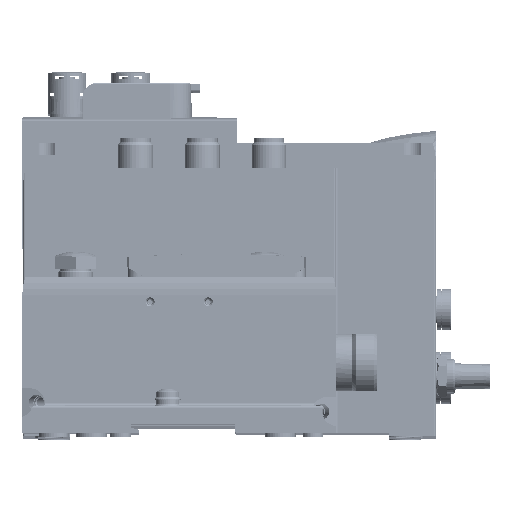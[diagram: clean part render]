
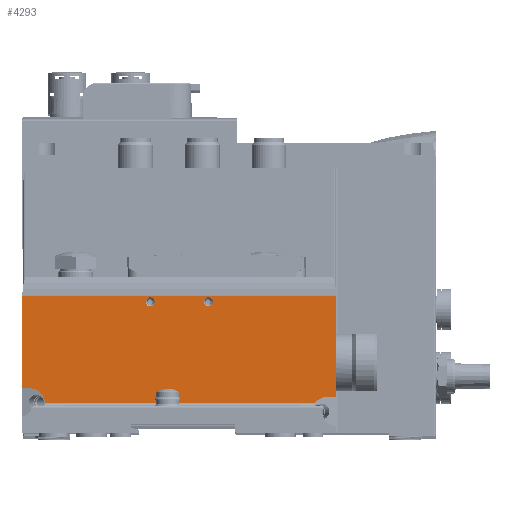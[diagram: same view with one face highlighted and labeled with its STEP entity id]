
A CAD part, top view. The second image highlights one B-rep face of the part: STEP entity #4293.
In plain terms, the highlighted planar face has unit normal (0, 0, 1) as drawn and (-1, 0, 0) by its records, which use the part's own axes.
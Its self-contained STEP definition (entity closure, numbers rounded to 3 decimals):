
#4293 = ADVANCED_FACE( '', ( #10471, #10472, #10473 ), #10474, .F. );
#10471 = FACE_BOUND( '', #19550, .T. );
#10472 = FACE_BOUND( '', #19551, .T. );
#10473 = FACE_OUTER_BOUND( '', #19552, .T. );
#10474 = PLANE( '', #19553 );
#19550 = EDGE_LOOP( '', ( #31121 ) );
#19551 = EDGE_LOOP( '', ( #31122 ) );
#19552 = EDGE_LOOP( '', ( #31123, #31124, #31125, #31126, #31127, #31128, #31129, #31130 ) );
#19553 = AXIS2_PLACEMENT_3D( '', #31131, #31132, #31133 );
#31121 = ORIENTED_EDGE( '', *, *, #52064, .T. );
#31122 = ORIENTED_EDGE( '', *, *, #52065, .T. );
#31123 = ORIENTED_EDGE( '', *, *, #52066, .T. );
#31124 = ORIENTED_EDGE( '', *, *, #51820, .T. );
#31125 = ORIENTED_EDGE( '', *, *, #52067, .F. );
#31126 = ORIENTED_EDGE( '', *, *, #52068, .F. );
#31127 = ORIENTED_EDGE( '', *, *, #52069, .F. );
#31128 = ORIENTED_EDGE( '', *, *, #52070, .T. );
#31129 = ORIENTED_EDGE( '', *, *, #52071, .F. );
#31130 = ORIENTED_EDGE( '', *, *, #52072, .T. );
#31131 = CARTESIAN_POINT( '', ( -15.4, 48.7, 54.05 ) );
#31132 = DIRECTION( '', ( 1., 0., 0. ) );
#31133 = DIRECTION( '', ( 0., 0., -1. ) );
#51820 = EDGE_CURVE( '', #62031, #62035, #62037, .T. );
#52064 = EDGE_CURVE( '', #62453, #62453, #62454, .T. );
#52065 = EDGE_CURVE( '', #62455, #62455, #62456, .T. );
#52066 = EDGE_CURVE( '', #62457, #62031, #62458, .T. );
#52067 = EDGE_CURVE( '', #62459, #62035, #62460, .F. );
#52068 = EDGE_CURVE( '', #62461, #62459, #62462, .T. );
#52069 = EDGE_CURVE( '', #62463, #62461, #62464, .F. );
#52070 = EDGE_CURVE( '', #62463, #62465, #62466, .T. );
#52071 = EDGE_CURVE( '', #62467, #62465, #62468, .T. );
#52072 = EDGE_CURVE( '', #62467, #62457, #62469, .T. );
#62031 = VERTEX_POINT( '', #76623 );
#62035 = VERTEX_POINT( '', #76629 );
#62037 = LINE( '', #76632, #76633 );
#62453 = VERTEX_POINT( '', #77216 );
#62454 = CIRCLE( '', #77217, 1.55 );
#62455 = VERTEX_POINT( '', #77218 );
#62456 = CIRCLE( '', #77219, 1.55 );
#62457 = VERTEX_POINT( '', #77220 );
#62458 = LINE( '', #77221, #77222 );
#62459 = VERTEX_POINT( '', #77223 );
#62460 = ELLIPSE( '', #77224, 5.176, 5. );
#62461 = VERTEX_POINT( '', #77225 );
#62462 = LINE( '', #77226, #77227 );
#62463 = VERTEX_POINT( '', #77228 );
#62464 = ELLIPSE( '', #77229, 5.132, 5. );
#62465 = VERTEX_POINT( '', #77230 );
#62466 = LINE( '', #77231, #77232 );
#62467 = VERTEX_POINT( '', #77233 );
#62468 = LINE( '', #77234, #77235 );
#62469 = LINE( '', #77236, #77237 );
#76623 = CARTESIAN_POINT( '', ( -15.4, 16.8, -54.05 ) );
#76629 = CARTESIAN_POINT( '', ( -15.4, 16.8, -51.491 ) );
#76632 = CARTESIAN_POINT( '', ( -15.4, 16.8, 54.05 ) );
#76633 = VECTOR( '', #92242, 1000. );
#77216 = CARTESIAN_POINT( '', ( -15.4, 46.55, -11.55 ) );
#77217 = AXIS2_PLACEMENT_3D( '', #92555, #92556, #92557 );
#77218 = CARTESIAN_POINT( '', ( -15.4, 46.55, 8.45 ) );
#77219 = AXIS2_PLACEMENT_3D( '', #92558, #92559, #92560 );
#77220 = CARTESIAN_POINT( '', ( -15.4, 48.7, -54.05 ) );
#77221 = CARTESIAN_POINT( '', ( -15.4, 48.7, -54.05 ) );
#77222 = VECTOR( '', #92561, 1000. );
#77223 = CARTESIAN_POINT( '', ( -15.4, 11.6, -46.319 ) );
#77224 = AXIS2_PLACEMENT_3D( '', #92562, #92563, #92564 );
#77225 = CARTESIAN_POINT( '', ( -15.4, 11.6, 46.669 ) );
#77226 = CARTESIAN_POINT( '', ( -15.4, 11.6, 54.05 ) );
#77227 = VECTOR( '', #92565, 1000. );
#77228 = CARTESIAN_POINT( '', ( -15.4, 13.8, 50.92 ) );
#77229 = AXIS2_PLACEMENT_3D( '', #92566, #92567, #92568 );
#77230 = CARTESIAN_POINT( '', ( -15.4, 13.8, 54.05 ) );
#77231 = CARTESIAN_POINT( '', ( -15.4, 13.8, 54.05 ) );
#77232 = VECTOR( '', #92569, 1000. );
#77233 = CARTESIAN_POINT( '', ( -15.4, 48.7, 54.05 ) );
#77234 = CARTESIAN_POINT( '', ( -15.4, 48.7, 54.05 ) );
#77235 = VECTOR( '', #92570, 1000. );
#77236 = CARTESIAN_POINT( '', ( -15.4, 48.7, 54.05 ) );
#77237 = VECTOR( '', #92571, 1000. );
#92242 = DIRECTION( '', ( 0., 0., 1. ) );
#92555 = CARTESIAN_POINT( '', ( -15.4, 46.55, -10. ) );
#92556 = DIRECTION( '', ( 1., 0., 0. ) );
#92557 = DIRECTION( '', ( 0., 0., -1. ) );
#92558 = CARTESIAN_POINT( '', ( -15.4, 46.55, 10. ) );
#92559 = DIRECTION( '', ( 1., 0., 0. ) );
#92560 = DIRECTION( '', ( 0., 0., -1. ) );
#92561 = DIRECTION( '', ( 0., -1., 0. ) );
#92562 = CARTESIAN_POINT( '', ( -15.4, 11.8, -51.491 ) );
#92563 = DIRECTION( '', ( 1., 0., 0. ) );
#92564 = DIRECTION( '', ( 0., 0., 1. ) );
#92565 = DIRECTION( '', ( 0., 0., -1. ) );
#92566 = CARTESIAN_POINT( '', ( -15.4, 8.8, 50.92 ) );
#92567 = DIRECTION( '', ( 1., 0., 0. ) );
#92568 = DIRECTION( '', ( 0., 0., -1. ) );
#92569 = DIRECTION( '', ( 0., 0., 1. ) );
#92570 = DIRECTION( '', ( 0., -1., 0. ) );
#92571 = DIRECTION( '', ( 0., 0., -1. ) );
